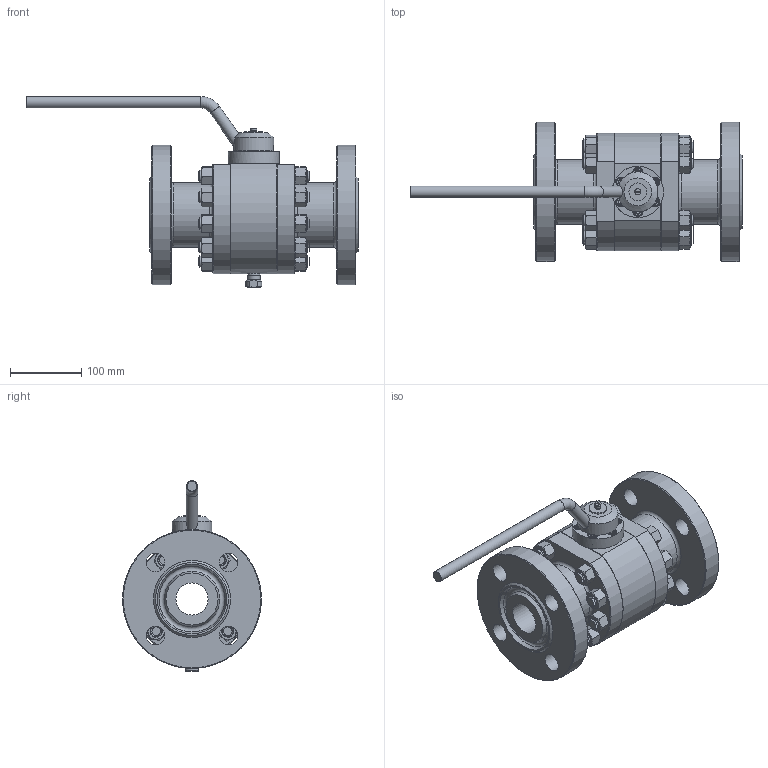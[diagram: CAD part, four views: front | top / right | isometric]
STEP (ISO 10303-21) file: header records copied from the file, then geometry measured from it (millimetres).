
FILE_DESCRIPTION(('STEP AP203'), '1');
FILE_NAME('ZARD 050.080.27.P.stp', '2013-12-06T07:42:20', ('Øèøêî'), ('ÎÎÎ ÈÊ Ýíåðïðåä-ßðäîñ'), 'ASCON STEP Converter 1.3', 'Kompas 3D', '');
FILE_SCHEMA(('CONFIG_CONTROL_DESIGN','SUPPORT_RESOURCE_SCHEMA'));
Length unit declared in the file: millimetre
Products named in the file (1): 167
Bounding box: 465.31 x 195 x 267.5 mm (x, y, z)
Volume: 4221112.9 mm3; surface area: 485335.3 mm2
Topology: 1 solids, 23 shells, 757 faces, 1607 edges, 1004 vertices
Faces by surface type: plane 415, cone 173, cylinder 162, torus 7
Full cylindrical faces by diameter (mm): 5 x1, 5.3 x1, 6 x6, 8 x8, 8.376 x6, 8.5 x1, 9 x6, 13 x6, 14 x6, 14.141 x1, 16 x42, 17 x20, 17.33 x1, 24.8 x1, 25 x3, 26 x8, 35 x1, 35.5 x1, 45 x2, 56 x1, 72 x1, 84 x3, 90 x2, 98 x2, 195 x2
Entity records: 32069 total; most frequent: CARTESIAN_POINT 15809, DIRECTION 3401, ORIENTED_EDGE 3202, EDGE_CURVE 1601, AXIS2_PLACEMENT_3D 1375, VERTEX_POINT 1004, EDGE_LOOP 904, ADVANCED_FACE 757
